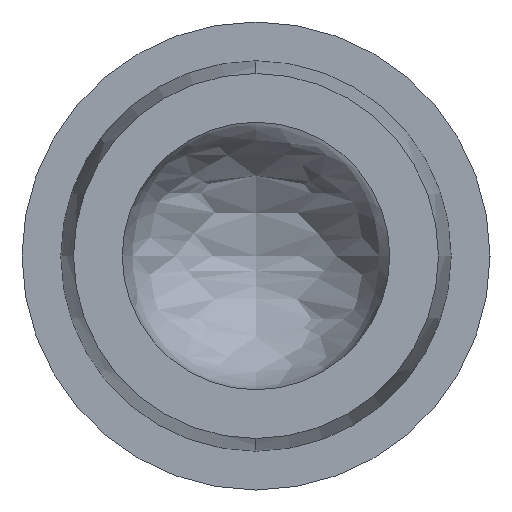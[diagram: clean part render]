
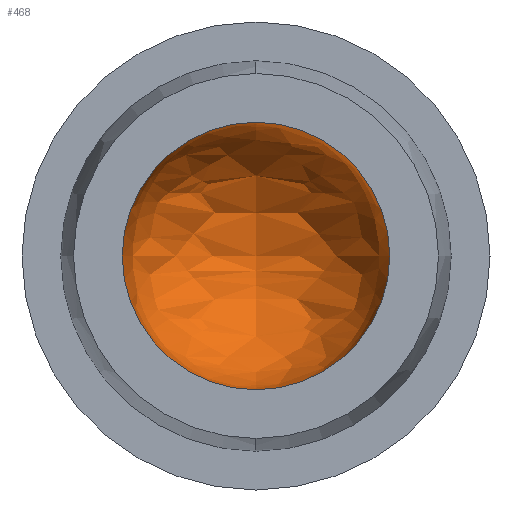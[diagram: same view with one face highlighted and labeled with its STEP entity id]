
A CAD part, left-side view. The second image highlights one B-rep face of the part: STEP entity #468.
In plain terms, the highlighted free-form (B-spline) face has degree [3, 3] with [4, 4] control points.
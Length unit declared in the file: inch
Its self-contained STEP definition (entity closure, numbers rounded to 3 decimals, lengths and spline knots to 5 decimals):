
#9 = CARTESIAN_POINT ( 'NONE',  ( -1., -0.25, 0. ) ) ;
#19 = VERTEX_POINT ( 'NONE', #144 ) ;
#20 = CARTESIAN_POINT ( 'NONE',  ( -1., 0.5, -0.25 ) ) ;
#30 = ORIENTED_EDGE ( 'NONE', *, *, #474, .T. ) ;
#39 = CIRCLE ( 'NONE', #435, 0.25 ) ;
#47 = EDGE_CURVE ( 'NONE', #19, #433, #432, .T. ) ;
#56 = CARTESIAN_POINT ( 'NONE',  ( 0., -0.5, -0.25 ) ) ;
#68 = VERTEX_POINT ( 'NONE', #9 ) ;
#77 = ORIENTED_EDGE ( 'NONE', *, *, #92, .T. ) ;
#79 = DIRECTION ( 'NONE',  ( -1., 0., 0. ) ) ;
#86 = CARTESIAN_POINT ( 'NONE',  ( -1., 0.5, 0.25 ) ) ;
#88 = VERTEX_POINT ( 'NONE', #235 ) ;
#90 = CARTESIAN_POINT ( 'NONE',  ( -1., 0., 0. ) ) ;
#92 = EDGE_CURVE ( 'NONE', #433, #68, #39, .T. ) ;
#101 =( BOUNDED_SURFACE ( )  B_SPLINE_SURFACE ( 3, 3, ( 
 ( #205, #367, #483, #246 ),
 ( #20, #286, #56, #328 ),
 ( #86, #370, #128, #403 ),
 ( #168, #443, #208, #485 ) ),
 .UNSPECIFIED., .F., .F., .F. ) 
 B_SPLINE_SURFACE_WITH_KNOTS ( ( 4, 4 ),
 ( 4, 4 ),
 ( 0., 1. ),
 ( 0., 1. ),
 .UNSPECIFIED. ) 
 GEOMETRIC_REPRESENTATION_ITEM ( )  RATIONAL_B_SPLINE_SURFACE ( (
 ( 1., 0.333, 0.333, 1.),
 ( 0.333, 0.111, 0.111, 0.333),
 ( 0.333, 0.111, 0.111, 0.333),
 ( 1., 0.333, 0.333, 1.) ) ) 
 REPRESENTATION_ITEM ( '' )  SURFACE ( )  );
#128 = CARTESIAN_POINT ( 'NONE',  ( 0., -0.5, 0.25 ) ) ;
#144 = CARTESIAN_POINT ( 'NONE',  ( -1., 0.25, 0. ) ) ;
#151 = ORIENTED_EDGE ( 'NONE', *, *, #47, .T. ) ;
#168 = CARTESIAN_POINT ( 'NONE',  ( -1., 0., 0.25 ) ) ;
#169 = CARTESIAN_POINT ( 'NONE',  ( -1., 0., 0. ) ) ;
#172 = DIRECTION ( 'NONE',  ( -1., 0., 0. ) ) ;
#188 = AXIS2_PLACEMENT_3D ( 'NONE', #169, #444, #209 ) ;
#205 = CARTESIAN_POINT ( 'NONE',  ( -1., 0., -0.25 ) ) ;
#206 = CIRCLE ( 'NONE', #307, 0.25 ) ;
#208 = CARTESIAN_POINT ( 'NONE',  ( -1., 0., 0.25 ) ) ;
#209 = DIRECTION ( 'NONE',  ( 0., 1., 0. ) ) ;
#228 = DIRECTION ( 'NONE',  ( 0., 1., 0. ) ) ;
#235 = CARTESIAN_POINT ( 'NONE',  ( -1., 0., 0.25 ) ) ;
#237 = ORIENTED_EDGE ( 'NONE', *, *, #257, .T. ) ;
#243 = EDGE_LOOP ( 'NONE', ( #30, #151, #77, #237 ) ) ;
#246 = CARTESIAN_POINT ( 'NONE',  ( -1., 0., -0.25 ) ) ;
#257 = EDGE_CURVE ( 'NONE', #68, #88, #278, .T. ) ;
#278 = CIRCLE ( 'NONE', #188, 0.25 ) ;
#286 = CARTESIAN_POINT ( 'NONE',  ( 0., 0.5, -0.25 ) ) ;
#307 = AXIS2_PLACEMENT_3D ( 'NONE', #405, #172, #445 ) ;
#308 = FACE_OUTER_BOUND ( 'NONE', #243, .T. ) ;
#314 = CARTESIAN_POINT ( 'NONE',  ( -1., 0., 0. ) ) ;
#328 = CARTESIAN_POINT ( 'NONE',  ( -1., -0.5, -0.25 ) ) ;
#360 = DIRECTION ( 'NONE',  ( 0., 1., 0. ) ) ;
#367 = CARTESIAN_POINT ( 'NONE',  ( -1., 0., -0.25 ) ) ;
#370 = CARTESIAN_POINT ( 'NONE',  ( 0., 0.5, 0.25 ) ) ;
#403 = CARTESIAN_POINT ( 'NONE',  ( -1., -0.5, 0.25 ) ) ;
#405 = CARTESIAN_POINT ( 'NONE',  ( -1., 0., 0. ) ) ;
#412 = AXIS2_PLACEMENT_3D ( 'NONE', #90, #469, #228 ) ;
#432 = CIRCLE ( 'NONE', #412, 0.25 ) ;
#433 = VERTEX_POINT ( 'NONE', #479 ) ;
#435 = AXIS2_PLACEMENT_3D ( 'NONE', #314, #79, #360 ) ;
#443 = CARTESIAN_POINT ( 'NONE',  ( -1., 0., 0.25 ) ) ;
#444 = DIRECTION ( 'NONE',  ( -1., 0., 0. ) ) ;
#445 = DIRECTION ( 'NONE',  ( 0., 1., 0. ) ) ;
#468 = ADVANCED_FACE ( 'NONE', ( #308 ), #101, .F. ) ;
#469 = DIRECTION ( 'NONE',  ( -1., 0., 0. ) ) ;
#474 = EDGE_CURVE ( 'NONE', #88, #19, #206, .T. ) ;
#479 = CARTESIAN_POINT ( 'NONE',  ( -1., 0., -0.25 ) ) ;
#483 = CARTESIAN_POINT ( 'NONE',  ( -1., 0., -0.25 ) ) ;
#485 = CARTESIAN_POINT ( 'NONE',  ( -1., 0., 0.25 ) ) ;
